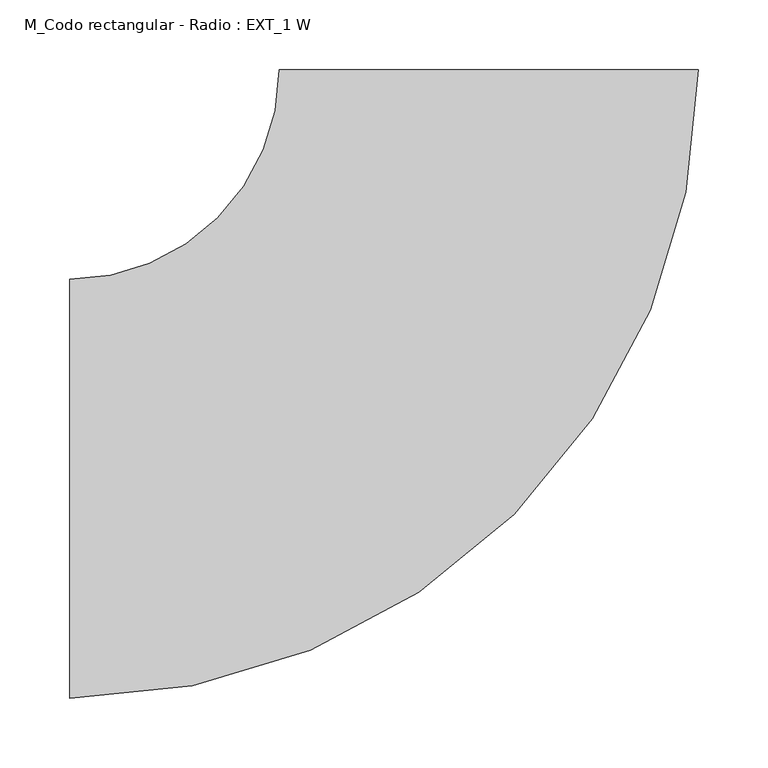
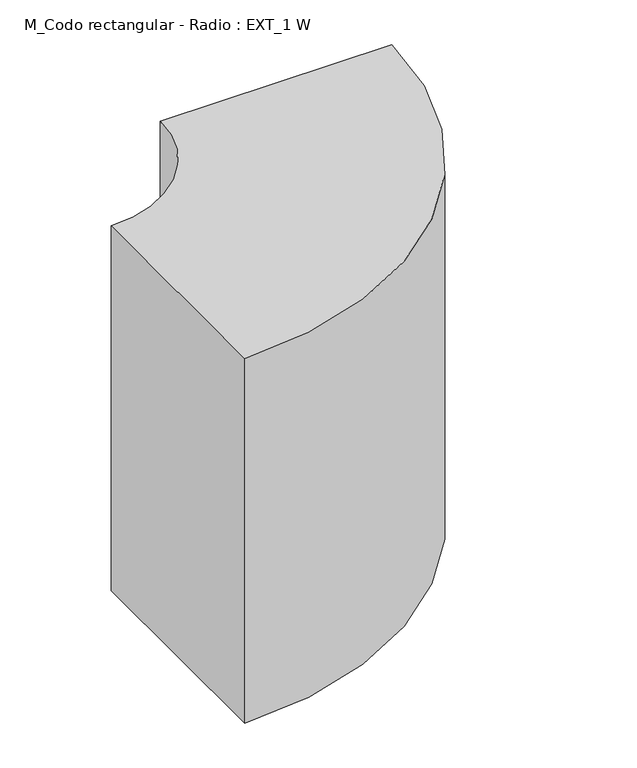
"""IFC4 building model written with IfcOpenShell, lengths in millimetres: duct fitting geometry, M_Codo rectangular - Radio : EXT_1 W."""

from ifc_helpers import new_model, si_unit, point, frame, frame_2d, origin, place, context, project, spatial, polyline, circle_curve, trimmed, segment, composite_curve, outline, extrude, source, transform, mapped, element, save


def m_codo_rectangular_radio_ext_1_w_5d3c8198(model_context):
    return source(origin(), model_context, "Body", "SweptSolid", [
        extrude(outline(composite_curve([segment(trimmed(circle_curve(frame_2d((-300.0, 300.0)), 450.0), [point((150.0, 300.0))], [point((-300.0, -150.0))], False, "CARTESIAN"), True, "CONTINUOUS"), segment(polyline([(-300.0, -150.0), (-300.0, 150.0)]), True, "CONTINUOUS"), segment(trimmed(circle_curve(frame_2d((-300.0, 300.0)), 150.0), [point((-300.0, 150.0))], [point((-150.0, 300.0))], True, "CARTESIAN"), True, "CONTINUOUS"), segment(polyline([(-150.0, 300.0), (150.0, 300.0)]), True, "CONTINUOUS")], self_intersect=False)), frame((0.0, 0.0, -250.0), z_axis=(0.0, 0.0, 1.0), x_axis=(1.0, 0.0, 0.0)), (0.0, 0.0, 1.0), 500.0),
    ])


if __name__ == "__main__":
    model = new_model("IFC4")
    model_context = context("Model", 3, world=origin())
    ifc_project = project(units=[si_unit("LENGTHUNIT", "METRE", prefix="MILLI")], contexts=[model_context])
    site = spatial("IfcSite", under=ifc_project)
    building = spatial("IfcBuilding", under=site)
    placement = place(None, origin())
    m_codo_rectangular_radio_ext_1_w_shape = m_codo_rectangular_radio_ext_1_w_5d3c8198(model_context)
    element("IfcDuctFitting", 1, ObjectType="M_Codo rectangular - Radio : EXT_1 W", at=placement, inside=building, context=model_context, shape_type="MappedRepresentation", body=[
        mapped(m_codo_rectangular_radio_ext_1_w_shape, transform((0.0, 0.0, 0.0), x_axis=(1.0, 0.0, 0.0), y_axis=(0.0, 1.0, 0.0), z_axis=(0.0, 0.0, 1.0))),
    ])
    save(model, "model.ifc")
